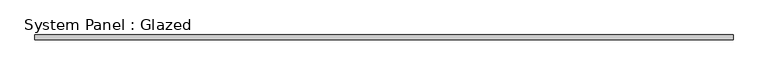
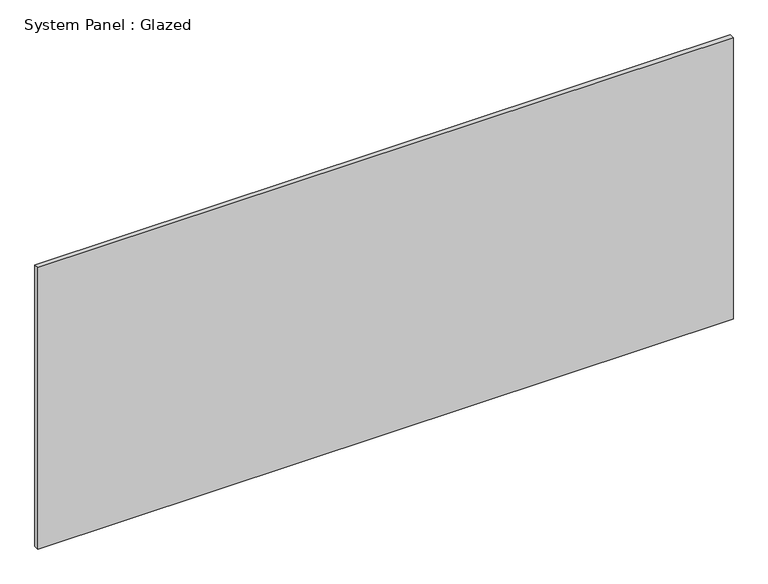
"""IFC4 building model written with IfcOpenShell, lengths in millimetres: plate geometry, System Panel : Glazed."""

from ifc_helpers import new_model, si_unit, origin, origin_with_axes, place, context, project, spatial, polyline, outline, extrude, source, transform, mapped, element, save


def system_panel_glazed_09349be2(model_context):
    return source(origin(), model_context, "Body", "SweptSolid", [
        extrude(outline(polyline([(730.0, -5.0), (-730.0, -5.0), (-730.0, 5.0), (730.0, 5.0), (730.0, -5.0)])), origin_with_axes(), (0.0, 0.0, 1.0), 625.0),
    ])


if __name__ == "__main__":
    model = new_model("IFC4")
    model_context = context("Model", 3, world=origin())
    ifc_project = project(units=[si_unit("LENGTHUNIT", "METRE", prefix="MILLI")], contexts=[model_context])
    site = spatial("IfcSite", under=ifc_project)
    building = spatial("IfcBuilding", under=site)
    placement = place(None, origin())
    system_panel_glazed_shape = system_panel_glazed_09349be2(model_context)
    element("IfcPlate", 1, ObjectType="System Panel : Glazed", at=placement, inside=building, context=model_context, shape_type="MappedRepresentation", body=[
        mapped(system_panel_glazed_shape, transform((0.0, 0.0, 0.0), x_axis=(1.0, 0.0, 0.0), y_axis=(0.0, 1.0, 0.0), z_axis=(0.0, 0.0, 1.0))),
    ])
    save(model, "model.ifc")
